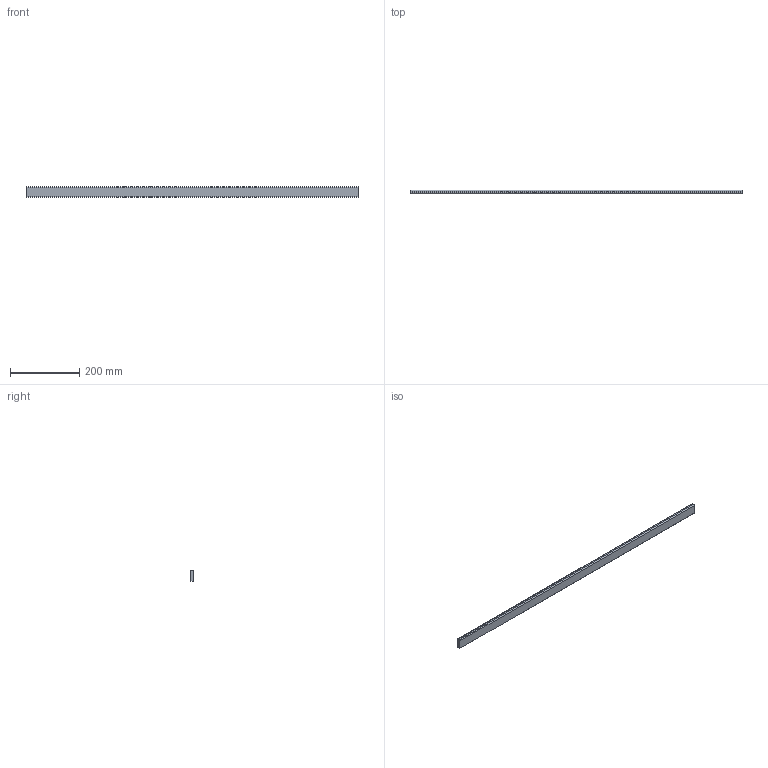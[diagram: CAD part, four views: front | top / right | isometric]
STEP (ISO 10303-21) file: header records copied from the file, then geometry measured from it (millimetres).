
FILE_DESCRIPTION (( 'STEP AP214' ), '1' );
FILE_NAME ('_Querreling_KAB-1050_KS-19.step', '2010-08-26T14:58:40', ( 'grass' ), ( '' ), 'SwSTEP 2.0', 'SolidWorks 2009', '' );
FILE_SCHEMA (( 'AUTOMOTIVE_DESIGN' ));
Length unit declared in the file: millimetre
Products named in the file (1): _Querreling_KAB-1050_KS-19
Bounding box: 956.5 x 10.5 x 30 mm (x, y, z)
Volume: 297192.2 mm3; surface area: 74813.6 mm2
Topology: 1 solids, 1 shells, 10 faces, 24 edges, 16 vertices
Faces by surface type: plane 6, cylinder 4
Entity records: 330 total; most frequent: DIRECTION 54, CARTESIAN_POINT 51, ORIENTED_EDGE 48, EDGE_CURVE 24, AXIS2_PLACEMENT_3D 19, LINE 16, VECTOR 16, VERTEX_POINT 16
